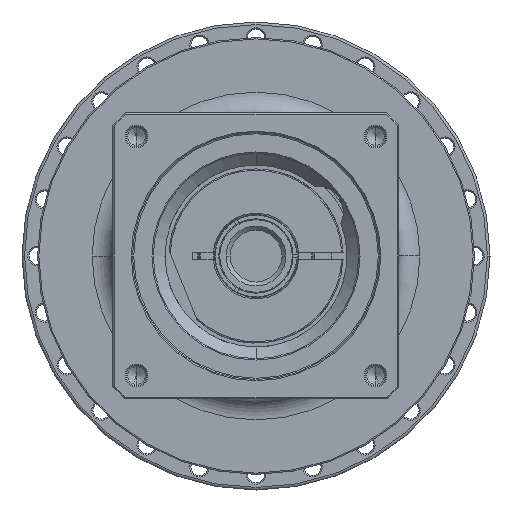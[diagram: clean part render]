
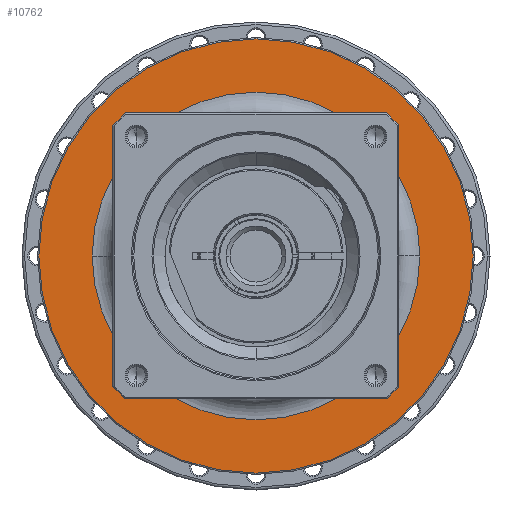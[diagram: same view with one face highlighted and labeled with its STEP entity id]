
A CAD part, left-side view. The second image highlights one B-rep face of the part: STEP entity #10762.
In plain terms, the highlighted planar face has unit normal (-1, 0, 0) as drawn and (1, 0, 0) by its records, which use the part's own axes.
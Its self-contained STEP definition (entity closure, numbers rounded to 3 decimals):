
#10241=CARTESIAN_POINT('',(-9.,0.,0.));
#10242=DIRECTION('',(-1.,0.,0.));
#10243=DIRECTION('',(0.,-1.,0.));
#10244=AXIS2_PLACEMENT_3D('',#10241,#10242,#10243);
#10246=CARTESIAN_POINT('',(-9.,0.,0.));
#10247=DIRECTION('',(-1.,0.,0.));
#10248=DIRECTION('',(0.,1.,0.));
#10249=AXIS2_PLACEMENT_3D('',#10246,#10247,#10248);
#10251=CARTESIAN_POINT('',(-9.,0.,0.));
#10252=DIRECTION('',(-1.,0.,0.));
#10253=DIRECTION('',(0.,-1.,0.));
#10254=AXIS2_PLACEMENT_3D('',#10251,#10252,#10253);
#10256=CARTESIAN_POINT('',(-9.,0.,0.));
#10257=DIRECTION('',(-1.,0.,0.));
#10258=DIRECTION('',(0.,1.,0.));
#10259=AXIS2_PLACEMENT_3D('',#10256,#10257,#10258);
#10325=CARTESIAN_POINT('',(-9.,-83.5,0.));
#10326=CARTESIAN_POINT('',(-9.,83.5,0.));
#10327=VERTEX_POINT('',#10325);
#10328=VERTEX_POINT('',#10326);
#10349=CARTESIAN_POINT('',(-9.,-63.,0.));
#10350=CARTESIAN_POINT('',(-9.,63.,0.));
#10351=VERTEX_POINT('',#10349);
#10352=VERTEX_POINT('',#10350);
#10747=CARTESIAN_POINT('',(-9.,0.,0.));
#10748=DIRECTION('',(1.,0.,0.));
#10749=DIRECTION('',(0.,-1.,0.));
#10750=AXIS2_PLACEMENT_3D('',#10747,#10748,#10749);
#10751=PLANE('',#10750);
#10752=ORIENTED_EDGE('',*,*,#10688,.T.);
#10753=ORIENTED_EDGE('',*,*,#10703,.T.);
#10754=EDGE_LOOP('',(#10752,#10753));
#10755=FACE_OUTER_BOUND('',#10754,.F.);
#10757=ORIENTED_EDGE('',*,*,#10756,.F.);
#10759=ORIENTED_EDGE('',*,*,#10758,.F.);
#10760=EDGE_LOOP('',(#10757,#10759));
#10761=FACE_BOUND('',#10760,.F.);
#10762=ADVANCED_FACE('',(#10755,#10761),#10751,.T.);
#10245=CIRCLE('',#10244,63.);
#10250=CIRCLE('',#10249,63.);
#10255=CIRCLE('',#10254,83.5);
#10260=CIRCLE('',#10259,83.5);
#10688=EDGE_CURVE('',#10327,#10328,#10255,.T.);
#10703=EDGE_CURVE('',#10328,#10327,#10260,.T.);
#10756=EDGE_CURVE('',#10351,#10352,#10245,.T.);
#10758=EDGE_CURVE('',#10352,#10351,#10250,.T.);
